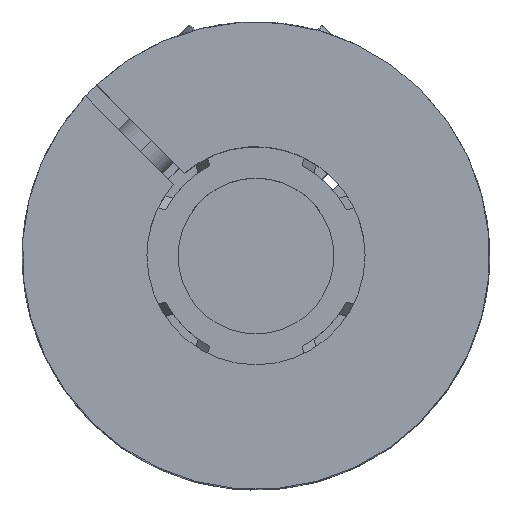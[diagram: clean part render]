
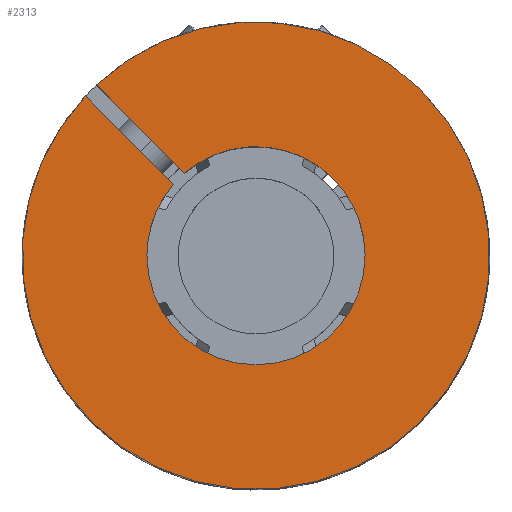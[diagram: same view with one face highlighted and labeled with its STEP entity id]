
A CAD part, top view. The second image highlights one B-rep face of the part: STEP entity #2313.
In plain terms, the highlighted planar face has unit normal (0, 0, 1).
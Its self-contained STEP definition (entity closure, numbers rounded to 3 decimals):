
#19 = VECTOR ( 'NONE', #1055, 1000. ) ;
#55 = DIRECTION ( 'NONE',  ( 1., 0., 0. ) ) ;
#86 = DIRECTION ( 'NONE',  ( 0., 0., 1. ) ) ;
#109 = CARTESIAN_POINT ( 'NONE',  ( 23.033, 40.989, 114.408 ) ) ;
#195 = AXIS2_PLACEMENT_3D ( 'NONE', #3896, #545, #4475 ) ;
#200 = CIRCLE ( 'NONE', #2690, 15. ) ;
#234 = CARTESIAN_POINT ( 'NONE',  ( 12.426, 30.382, 114.408 ) ) ;
#288 = CIRCLE ( 'NONE', #195, 15. ) ;
#545 = DIRECTION ( 'NONE',  ( 0., 0., -1. ) ) ;
#825 = CIRCLE ( 'NONE', #4485, 15. ) ;
#993 = EDGE_CURVE ( 'NONE', #6065, #2880, #200, .T. ) ;
#1052 = CARTESIAN_POINT ( 'NONE',  ( 23.033, 40.989, 114.408 ) ) ;
#1055 = DIRECTION ( 'NONE',  ( -0.707, 0.707, 0. ) ) ;
#1062 = EDGE_CURVE ( 'NONE', #1561, #6065, #2810, .T. ) ;
#1182 = CARTESIAN_POINT ( 'NONE',  ( 18.449, 46.28, 114.408 ) ) ;
#1259 = ORIENTED_EDGE ( 'NONE', *, *, #2644, .F. ) ;
#1470 = ORIENTED_EDGE ( 'NONE', *, *, #1062, .F. ) ;
#1485 = DIRECTION ( 'NONE',  ( 0.707, -0.707, 0. ) ) ;
#1514 = EDGE_CURVE ( 'NONE', #1817, #6251, #2489, .T. ) ;
#1561 = VERTEX_POINT ( 'NONE', #1182 ) ;
#1582 = EDGE_CURVE ( 'NONE', #2527, #7303, #825, .T. ) ;
#1607 = DIRECTION ( 'NONE',  ( 0., 0., 1. ) ) ;
#1610 = DIRECTION ( 'NONE',  ( 1., 0., 0. ) ) ;
#1651 = DIRECTION ( 'NONE',  ( 0., 0., 1. ) ) ;
#1669 = DIRECTION ( 'NONE',  ( -0.707, -0.707, 0. ) ) ;
#1707 = AXIS2_PLACEMENT_3D ( 'NONE', #1052, #1607, #7243 ) ;
#1810 = EDGE_CURVE ( 'NONE', #6251, #1561, #3363, .T. ) ;
#1817 = VERTEX_POINT ( 'NONE', #2713 ) ;
#2023 = CARTESIAN_POINT ( 'NONE',  ( 4.744, 58.571, 114.408 ) ) ;
#2024 = DIRECTION ( 'NONE',  ( -0.707, -0.707, 0. ) ) ;
#2032 = EDGE_CURVE ( 'NONE', #5678, #1817, #2260, .T. ) ;
#2260 = CIRCLE ( 'NONE', #1707, 7. ) ;
#2313 = ADVANCED_FACE ( 'NONE', ( #3414 ), #6534, .F. ) ;
#2489 = CIRCLE ( 'NONE', #4107, 7. ) ;
#2527 = VERTEX_POINT ( 'NONE', #234 ) ;
#2644 = EDGE_CURVE ( 'NONE', #7303, #5678, #4238, .T. ) ;
#2690 = AXIS2_PLACEMENT_3D ( 'NONE', #6986, #6945, #6868 ) ;
#2713 = CARTESIAN_POINT ( 'NONE',  ( 16.033, 40.989, 114.408 ) ) ;
#2736 = CARTESIAN_POINT ( 'NONE',  ( 5.451, 59.278, 114.408 ) ) ;
#2810 = LINE ( 'NONE', #2736, #19 ) ;
#2880 = VERTEX_POINT ( 'NONE', #6831 ) ;
#2911 = ORIENTED_EDGE ( 'NONE', *, *, #1514, .F. ) ;
#3363 = CIRCLE ( 'NONE', #3917, 7. ) ;
#3414 = FACE_OUTER_BOUND ( 'NONE', #4388, .T. ) ;
#3646 = CARTESIAN_POINT ( 'NONE',  ( 12.079, 51.236, 114.408 ) ) ;
#3883 = CARTESIAN_POINT ( 'NONE',  ( 23.033, 40.989, 114.408 ) ) ;
#3895 = ORIENTED_EDGE ( 'NONE', *, *, #4125, .F. ) ;
#3896 = CARTESIAN_POINT ( 'NONE',  ( 23.033, 40.989, 114.408 ) ) ;
#3917 = AXIS2_PLACEMENT_3D ( 'NONE', #7248, #1651, #1610 ) ;
#4107 = AXIS2_PLACEMENT_3D ( 'NONE', #109, #86, #55 ) ;
#4125 = EDGE_CURVE ( 'NONE', #2880, #2527, #288, .T. ) ;
#4238 = LINE ( 'NONE', #2023, #5580 ) ;
#4284 = ORIENTED_EDGE ( 'NONE', *, *, #1582, .F. ) ;
#4356 = CARTESIAN_POINT ( 'NONE',  ( 12.786, 51.943, 114.408 ) ) ;
#4388 = EDGE_LOOP ( 'NONE', ( #1470, #5693, #2911, #7113, #1259, #4284, #3895, #5881 ) ) ;
#4475 = DIRECTION ( 'NONE',  ( -0.707, -0.707, 0. ) ) ;
#4485 = AXIS2_PLACEMENT_3D ( 'NONE', #3883, #5015, #1669 ) ;
#5015 = DIRECTION ( 'NONE',  ( 0., 0., -1. ) ) ;
#5049 = CARTESIAN_POINT ( 'NONE',  ( 17.742, 45.573, 114.408 ) ) ;
#5389 = DIRECTION ( 'NONE',  ( 0., 0., -1. ) ) ;
#5414 = CARTESIAN_POINT ( 'NONE',  ( 23.033, 40.989, 114.408 ) ) ;
#5580 = VECTOR ( 'NONE', #1485, 1000. ) ;
#5678 = VERTEX_POINT ( 'NONE', #5049 ) ;
#5693 = ORIENTED_EDGE ( 'NONE', *, *, #1810, .F. ) ;
#5881 = ORIENTED_EDGE ( 'NONE', *, *, #993, .F. ) ;
#6065 = VERTEX_POINT ( 'NONE', #4356 ) ;
#6083 = AXIS2_PLACEMENT_3D ( 'NONE', #5414, #5389, #2024 ) ;
#6251 = VERTEX_POINT ( 'NONE', #6786 ) ;
#6534 = PLANE ( 'NONE',  #6083 ) ;
#6786 = CARTESIAN_POINT ( 'NONE',  ( 30.033, 40.989, 114.408 ) ) ;
#6831 = CARTESIAN_POINT ( 'NONE',  ( 33.64, 51.596, 114.408 ) ) ;
#6868 = DIRECTION ( 'NONE',  ( -0.707, -0.707, 0. ) ) ;
#6945 = DIRECTION ( 'NONE',  ( 0., 0., -1. ) ) ;
#6986 = CARTESIAN_POINT ( 'NONE',  ( 23.033, 40.989, 114.408 ) ) ;
#7113 = ORIENTED_EDGE ( 'NONE', *, *, #2032, .F. ) ;
#7243 = DIRECTION ( 'NONE',  ( 1., 0., 0. ) ) ;
#7248 = CARTESIAN_POINT ( 'NONE',  ( 23.033, 40.989, 114.408 ) ) ;
#7303 = VERTEX_POINT ( 'NONE', #3646 ) ;
